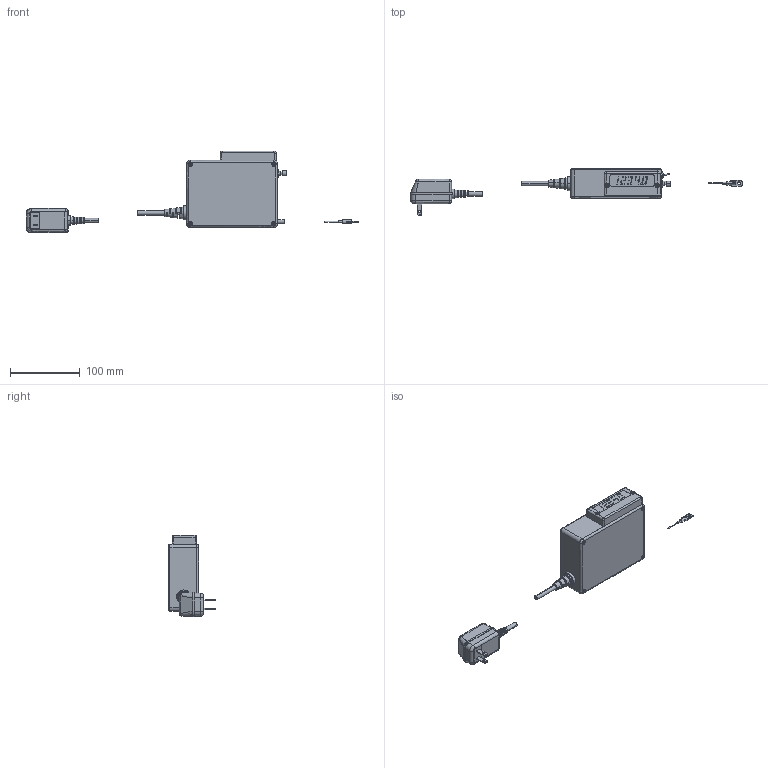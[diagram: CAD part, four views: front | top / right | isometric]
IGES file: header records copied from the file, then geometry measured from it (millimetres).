
Start section: SolidWorks IGES file using analytic representation for surfaces
Bounding box: 475.66 x 67.17 x 116.92 mm (x, y, z)
Surface area: 89614.3 mm2 (no closed solid volume)
Topology: 0 solids, 0 shells, 798 faces, 10166 edges, 10160 vertices
Faces by surface type: bspline 511, revolution 287
